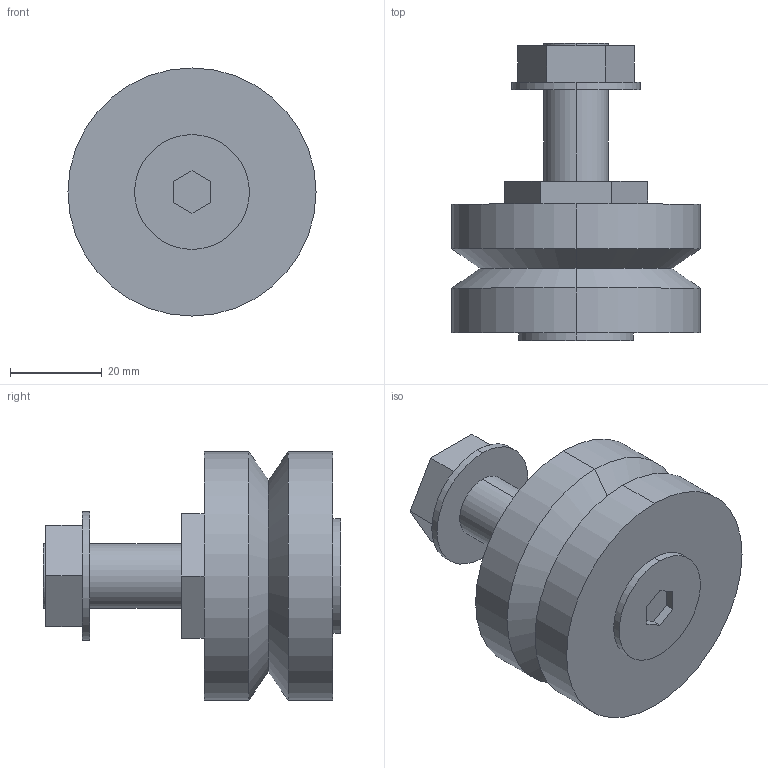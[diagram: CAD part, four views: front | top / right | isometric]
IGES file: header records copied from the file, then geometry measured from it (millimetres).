
Start section: 3D InterOp IGES (Version 21 0 1), Spatial Corp. Copyright (c) 1999-2007.
Global section: file name: RLJ54CNS.igs; native system: Spatial Corp.; preprocessor: 3D InterOp GENERIC/IGES 3.0; author: Noname; organization: Noname; date: 20220627.163630; units: millimetre
Bounding box: 54 x 64.7 x 54 mm (x, y, z)
Surface area: 13352.1 mm2 (no closed solid volume)
Topology: 0 solids, 0 shells, 43 faces, 192 edges, 192 vertices
Faces by surface type: extrusion 27, revolution 16
